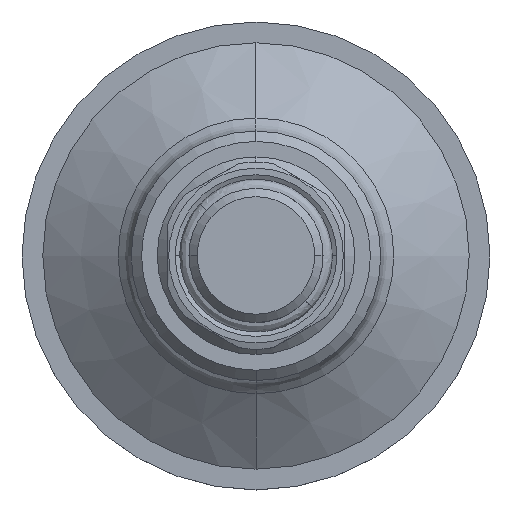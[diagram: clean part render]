
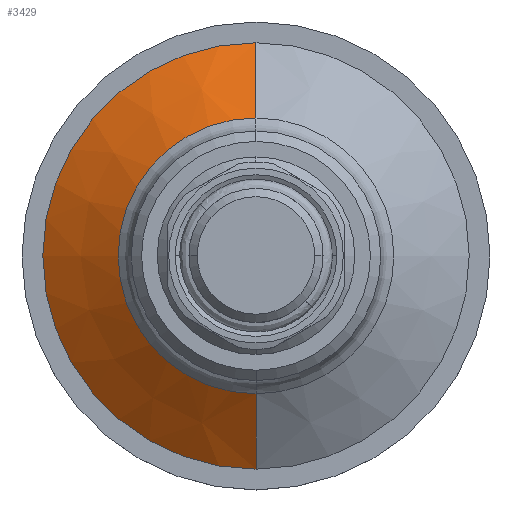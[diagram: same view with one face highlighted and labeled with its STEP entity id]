
A CAD part, top view. The second image highlights one B-rep face of the part: STEP entity #3429.
In plain terms, the highlighted conical face has half-angle 54.545 degrees and reference radius 13.26 mm.
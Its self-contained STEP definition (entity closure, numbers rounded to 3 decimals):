
#105 = DIRECTION ( 'NONE',  ( 0., -1., 0. ) ) ;
#261 = EDGE_LOOP ( 'NONE', ( #3356, #3196, #2645, #2381 ) ) ;
#356 = DIRECTION ( 'NONE',  ( 0., -0.815, -0.58 ) ) ;
#693 = AXIS2_PLACEMENT_3D ( 'NONE', #3884, #3539, #941 ) ;
#849 = DIRECTION ( 'NONE',  ( 0., 0.815, -0.58 ) ) ;
#941 = DIRECTION ( 'NONE',  ( 0., 1., 0. ) ) ;
#1082 = DIRECTION ( 'NONE',  ( 0., 0., -1. ) ) ;
#1135 = CIRCLE ( 'NONE', #1408, 13.26 ) ;
#1311 = VERTEX_POINT ( 'NONE', #2349 ) ;
#1376 = CARTESIAN_POINT ( 'NONE',  ( -26.906, -100.639, -36.311 ) ) ;
#1392 = CONICAL_SURFACE ( 'NONE', #2923, 13.26, 0.952 ) ;
#1408 = AXIS2_PLACEMENT_3D ( 'NONE', #2546, #4072, #2159 ) ;
#1455 = FACE_OUTER_BOUND ( 'NONE', #261, .T. ) ;
#1462 = CARTESIAN_POINT ( 'NONE',  ( -26.906, -59.638, -36.311 ) ) ;
#1498 = CARTESIAN_POINT ( 'NONE',  ( -26.906, -66.878, -31.155 ) ) ;
#1579 = EDGE_CURVE ( 'NONE', #1311, #1957, #3652, .T. ) ;
#1804 = EDGE_CURVE ( 'NONE', #2035, #1957, #2008, .T. ) ;
#1826 = LINE ( 'NONE', #1498, #3573 ) ;
#1844 = CARTESIAN_POINT ( 'NONE',  ( -26.906, -80.138, -31.155 ) ) ;
#1957 = VERTEX_POINT ( 'NONE', #1376 ) ;
#2008 = CIRCLE ( 'NONE', #693, 20.501 ) ;
#2035 = VERTEX_POINT ( 'NONE', #1462 ) ;
#2159 = DIRECTION ( 'NONE',  ( 0., 1., 0. ) ) ;
#2193 = CARTESIAN_POINT ( 'NONE',  ( -26.906, -66.878, -31.155 ) ) ;
#2349 = CARTESIAN_POINT ( 'NONE',  ( -26.906, -93.398, -31.155 ) ) ;
#2381 = ORIENTED_EDGE ( 'NONE', *, *, #1579, .F. ) ;
#2546 = CARTESIAN_POINT ( 'NONE',  ( -26.906, -80.138, -31.155 ) ) ;
#2627 = VERTEX_POINT ( 'NONE', #2193 ) ;
#2645 = ORIENTED_EDGE ( 'NONE', *, *, #1804, .T. ) ;
#2874 = EDGE_CURVE ( 'NONE', #2627, #2035, #1826, .T. ) ;
#2923 = AXIS2_PLACEMENT_3D ( 'NONE', #1844, #1082, #105 ) ;
#3171 = VECTOR ( 'NONE', #356, 1000. ) ;
#3196 = ORIENTED_EDGE ( 'NONE', *, *, #2874, .T. ) ;
#3356 = ORIENTED_EDGE ( 'NONE', *, *, #3974, .F. ) ;
#3429 = ADVANCED_FACE ( 'NONE', ( #1455 ), #1392, .T. ) ;
#3539 = DIRECTION ( 'NONE',  ( 0., 0., 1. ) ) ;
#3573 = VECTOR ( 'NONE', #849, 1000. ) ;
#3652 = LINE ( 'NONE', #3990, #3171 ) ;
#3884 = CARTESIAN_POINT ( 'NONE',  ( -26.906, -80.138, -36.311 ) ) ;
#3974 = EDGE_CURVE ( 'NONE', #2627, #1311, #1135, .T. ) ;
#3990 = CARTESIAN_POINT ( 'NONE',  ( -26.906, -93.398, -31.155 ) ) ;
#4072 = DIRECTION ( 'NONE',  ( 0., 0., 1. ) ) ;
